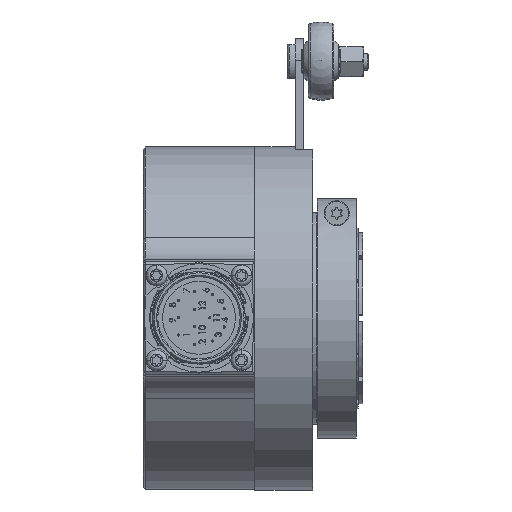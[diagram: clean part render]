
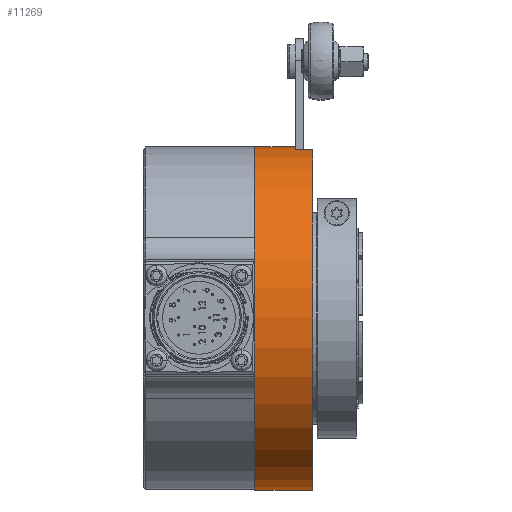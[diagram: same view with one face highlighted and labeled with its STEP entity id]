
A CAD part, top view. The second image highlights one B-rep face of the part: STEP entity #11269.
In plain terms, the highlighted cylindrical face has radius 40.075 mm (diameter 80.15 mm), a partial arc.
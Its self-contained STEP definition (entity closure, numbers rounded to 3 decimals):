
#432 = EDGE_CURVE ( 'NONE', #31086, #8528, #10103, .T. ) ;
#1123 = ORIENTED_EDGE ( 'NONE', *, *, #5144, .F. ) ;
#1707 = CARTESIAN_POINT ( 'NONE',  ( 13.5, 0., 0. ) ) ;
#1837 = AXIS2_PLACEMENT_3D ( 'NONE', #2768, #21448, #25103 ) ;
#1888 = LINE ( 'NONE', #24034, #33590 ) ;
#2517 = DIRECTION ( 'NONE',  ( -1., 0., 0. ) ) ;
#2726 = CARTESIAN_POINT ( 'NONE',  ( 9.5, 39.468, 6.95 ) ) ;
#2768 = CARTESIAN_POINT ( 'NONE',  ( 9.5, 0., 0. ) ) ;
#3437 = DIRECTION ( 'NONE',  ( 0., 1., 0. ) ) ;
#3660 = EDGE_CURVE ( 'NONE', #36966, #5054, #22629, .T. ) ;
#3997 = VECTOR ( 'NONE', #2517, 1000. ) ;
#5054 = VERTEX_POINT ( 'NONE', #16584 ) ;
#5144 = EDGE_CURVE ( 'NONE', #36966, #9163, #39486, .T. ) ;
#5616 = EDGE_CURVE ( 'NONE', #9163, #8528, #16441, .T. ) ;
#8091 = DIRECTION ( 'NONE',  ( 0., 1., 0. ) ) ;
#8528 = VERTEX_POINT ( 'NONE', #15961 ) ;
#9163 = VERTEX_POINT ( 'NONE', #31707 ) ;
#9342 = ORIENTED_EDGE ( 'NONE', *, *, #24428, .T. ) ;
#9959 = CARTESIAN_POINT ( 'NONE',  ( 9.5, 40.075, 0. ) ) ;
#10103 = LINE ( 'NONE', #12954, #10343 ) ;
#10343 = VECTOR ( 'NONE', #22899, 1000. ) ;
#10959 = AXIS2_PLACEMENT_3D ( 'NONE', #1707, #22297, #19250 ) ;
#11269 = ADVANCED_FACE ( 'NONE', ( #14993 ), #17652, .T. ) ;
#11540 = DIRECTION ( 'NONE',  ( -1., 0., 0. ) ) ;
#12954 = CARTESIAN_POINT ( 'NONE',  ( -12.775, 40.075, 0. ) ) ;
#14420 = ORIENTED_EDGE ( 'NONE', *, *, #25211, .T. ) ;
#14846 = CIRCLE ( 'NONE', #1837, 40.075 ) ;
#14993 = FACE_OUTER_BOUND ( 'NONE', #21872, .T. ) ;
#15961 = CARTESIAN_POINT ( 'NONE',  ( 0., 40.075, 0. ) ) ;
#16441 = CIRCLE ( 'NONE', #19639, 40.075 ) ;
#16584 = CARTESIAN_POINT ( 'NONE',  ( 13.5, 39.468, 6.95 ) ) ;
#17652 = CYLINDRICAL_SURFACE ( 'NONE', #31413, 40.075 ) ;
#19250 = DIRECTION ( 'NONE',  ( 0., 1., 0. ) ) ;
#19639 = AXIS2_PLACEMENT_3D ( 'NONE', #28396, #31063, #3437 ) ;
#21448 = DIRECTION ( 'NONE',  ( -1., 0., 0. ) ) ;
#21872 = EDGE_LOOP ( 'NONE', ( #1123, #34297, #9342, #14420, #26096, #38609 ) ) ;
#22191 = VERTEX_POINT ( 'NONE', #2726 ) ;
#22297 = DIRECTION ( 'NONE',  ( -1., 0., 0. ) ) ;
#22629 = CIRCLE ( 'NONE', #10959, 40.075 ) ;
#22899 = DIRECTION ( 'NONE',  ( -1., 0., 0. ) ) ;
#24034 = CARTESIAN_POINT ( 'NONE',  ( -12.775, 39.468, 6.95 ) ) ;
#24428 = EDGE_CURVE ( 'NONE', #5054, #22191, #1888, .T. ) ;
#25103 = DIRECTION ( 'NONE',  ( 0., 1., 0. ) ) ;
#25211 = EDGE_CURVE ( 'NONE', #22191, #31086, #14846, .T. ) ;
#26096 = ORIENTED_EDGE ( 'NONE', *, *, #432, .T. ) ;
#28396 = CARTESIAN_POINT ( 'NONE',  ( 0., 0., 0. ) ) ;
#29547 = CARTESIAN_POINT ( 'NONE',  ( -12.775, -40.075, 0. ) ) ;
#30228 = CARTESIAN_POINT ( 'NONE',  ( -12.775, 0., 0. ) ) ;
#31063 = DIRECTION ( 'NONE',  ( -1., 0., 0. ) ) ;
#31073 = CARTESIAN_POINT ( 'NONE',  ( 13.5, -40.075, 0. ) ) ;
#31086 = VERTEX_POINT ( 'NONE', #9959 ) ;
#31413 = AXIS2_PLACEMENT_3D ( 'NONE', #30228, #11540, #8091 ) ;
#31707 = CARTESIAN_POINT ( 'NONE',  ( 0., -40.075, 0. ) ) ;
#33590 = VECTOR ( 'NONE', #39655, 1000. ) ;
#34297 = ORIENTED_EDGE ( 'NONE', *, *, #3660, .T. ) ;
#36966 = VERTEX_POINT ( 'NONE', #31073 ) ;
#38609 = ORIENTED_EDGE ( 'NONE', *, *, #5616, .F. ) ;
#39486 = LINE ( 'NONE', #29547, #3997 ) ;
#39655 = DIRECTION ( 'NONE',  ( -1., 0., 0. ) ) ;
